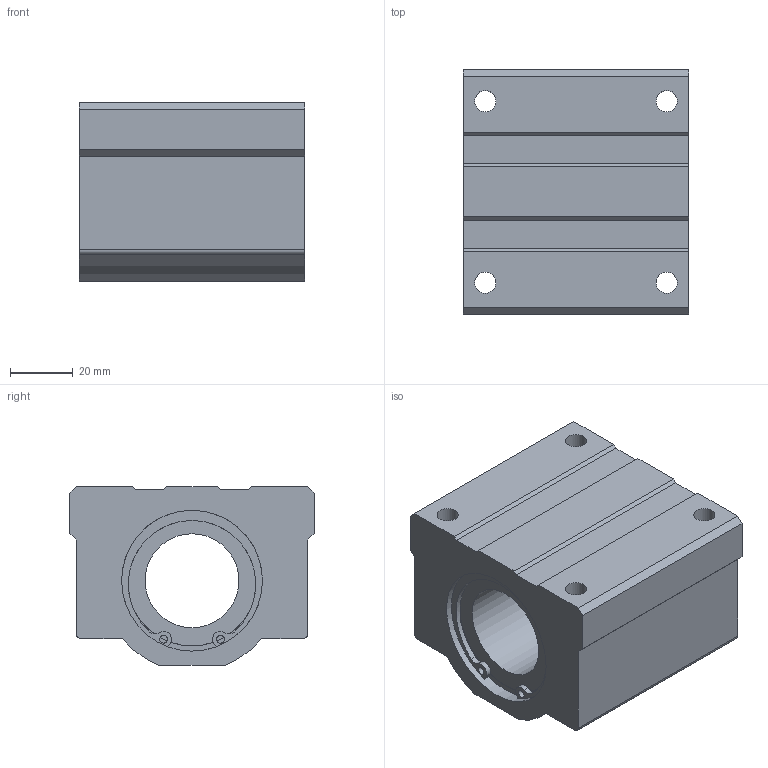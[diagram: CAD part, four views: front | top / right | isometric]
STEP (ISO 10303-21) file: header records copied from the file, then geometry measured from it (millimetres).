
FILE_DESCRIPTION((''),'2;1');
FILE_NAME('D:\製品 (図面)\カタログ用3D\リニアベアリング関連(改)\STEP形式\LH-B\LH30B.stp','2010-01-25T10:21:07',('Tsuchiya'),(''),'Autodesk Inventor 10','Autodesk Inventor 10','');
FILE_SCHEMA(('AUTOMOTIVE_DESIGN { 1 0 10303 214 1 1 1 1 }'));
Length unit declared in the file: millimetre
Products named in the file (1): LH30B
Bounding box: 72 x 78 x 57 mm (x, y, z)
Volume: 218036.7 mm3; surface area: 37785.8 mm2
Topology: 1 solids, 3 shells, 81 faces, 215 edges, 138 vertices
Faces by surface type: plane 44, cylinder 20, bspline 17
Full cylindrical faces by diameter (mm): 2.5 x2, 30 x1, 41.7 x2, 43 x2, 45 x4
Entity records: 2552 total; most frequent: CARTESIAN_POINT 599, DIRECTION 414, ORIENTED_EDGE 372, EDGE_CURVE 186, AXIS2_PLACEMENT_3D 163, VERTEX_POINT 126, EDGE_LOOP 118, CIRCLE 98
